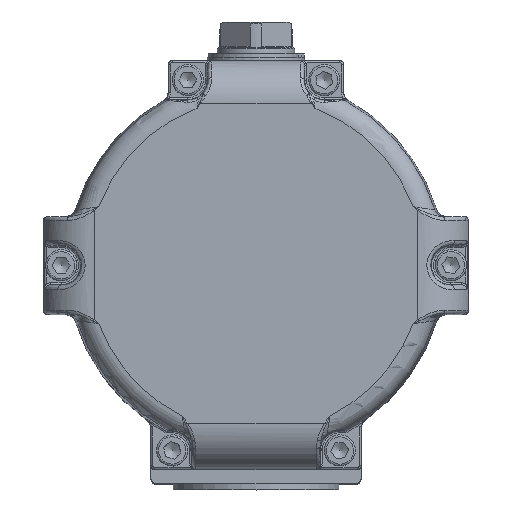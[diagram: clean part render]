
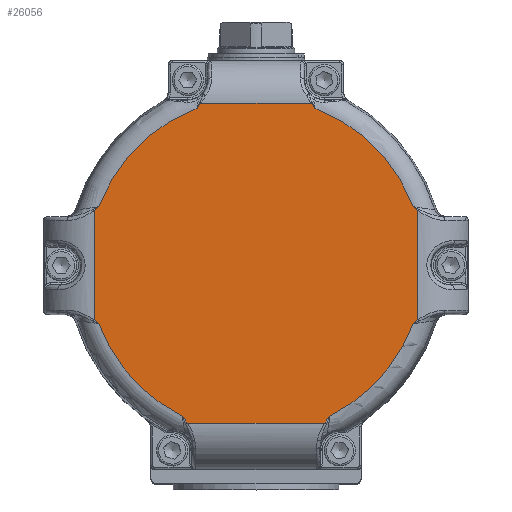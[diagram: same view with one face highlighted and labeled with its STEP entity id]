
A CAD part, top view. The second image highlights one B-rep face of the part: STEP entity #26056.
In plain terms, the highlighted planar face has unit normal (0, 0, 1).
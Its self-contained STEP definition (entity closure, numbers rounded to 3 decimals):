
#1167=PLANE('',#27844);
#1801=FACE_OUTER_BOUND('',#3384,.T.);
#3384=EDGE_LOOP('',(#17573,#17574,#17575,#17576,#17577,#17578,#17579,#17580,
#17581,#17582,#17583,#17584,#17585,#17586,#17587,#17588));
#4744=CIRCLE('',#27388,86.067);
#4759=CIRCLE('',#27408,86.067);
#4771=CIRCLE('',#27423,86.067);
#4779=CIRCLE('',#27435,86.067);
#6167=LINE('',#38567,#7098);
#6179=LINE('',#39639,#7110);
#6185=LINE('',#39931,#7116);
#6261=LINE('',#45925,#7192);
#7098=VECTOR('',#30232,10.);
#7110=VECTOR('',#30340,10.);
#7116=VECTOR('',#30376,10.);
#7192=VECTOR('',#31180,10.);
#8415=B_SPLINE_CURVE_WITH_KNOTS('',3,(#45887,#45888,#45889,#45890,#45891,
#45892),.UNSPECIFIED.,.F.,.F.,(4,2,4),(-0.002,0.,0.3),
 .UNSPECIFIED.);
#8416=B_SPLINE_CURVE_WITH_KNOTS('',3,(#45893,#45894,#45895,#45896,#45897,
#45898),.UNSPECIFIED.,.F.,.F.,(4,2,4),(0.,0.312,0.314),
 .UNSPECIFIED.);
#8417=B_SPLINE_CURVE_WITH_KNOTS('',3,(#45899,#45900,#45901,#45902,#45903,
#45904),.UNSPECIFIED.,.F.,.F.,(4,2,4),(-0.002,0.,0.312),
 .UNSPECIFIED.);
#8418=B_SPLINE_CURVE_WITH_KNOTS('',3,(#45905,#45906,#45907,#45908,#45909,
#45910),.UNSPECIFIED.,.F.,.F.,(4,2,4),(0.,0.3,
0.302),.UNSPECIFIED.);
#8419=B_SPLINE_CURVE_WITH_KNOTS('',3,(#45911,#45912,#45913,#45914,#45915,
#45916),.UNSPECIFIED.,.F.,.F.,(4,2,4),(-0.002,0.,0.3),
 .UNSPECIFIED.);
#8420=B_SPLINE_CURVE_WITH_KNOTS('',3,(#45918,#45919,#45920,#45921,#45922,
#45923),.UNSPECIFIED.,.F.,.F.,(4,2,4),(0.,0.473,0.474),
 .UNSPECIFIED.);
#8421=B_SPLINE_CURVE_WITH_KNOTS('',3,(#45926,#45927,#45928,#45929,#45930,
#45931),.UNSPECIFIED.,.F.,.F.,(4,2,4),(-0.002,0.,0.473),
 .UNSPECIFIED.);
#8422=B_SPLINE_CURVE_WITH_KNOTS('',3,(#45932,#45933,#45934,#45935,#45936,
#45937),.UNSPECIFIED.,.F.,.F.,(4,2,4),(0.,0.3,
0.302),.UNSPECIFIED.);
#9592=VERTEX_POINT('',#37887);
#9595=VERTEX_POINT('',#37911);
#9622=VERTEX_POINT('',#38304);
#9623=VERTEX_POINT('',#38312);
#9635=VERTEX_POINT('',#38561);
#9636=VERTEX_POINT('',#38566);
#9643=VERTEX_POINT('',#38631);
#9645=VERTEX_POINT('',#38645);
#9654=VERTEX_POINT('',#38879);
#9655=VERTEX_POINT('',#38884);
#9683=VERTEX_POINT('',#39637);
#9684=VERTEX_POINT('',#39638);
#9700=VERTEX_POINT('',#39929);
#9701=VERTEX_POINT('',#39930);
#10030=VERTEX_POINT('',#45917);
#10031=VERTEX_POINT('',#45924);
#12090=EDGE_CURVE('',#9595,#9592,#4744,.T.);
#12133=EDGE_CURVE('',#9622,#9623,#4759,.T.);
#12155=EDGE_CURVE('',#9635,#9636,#6167,.F.);
#12169=EDGE_CURVE('',#9645,#9643,#4771,.T.);
#12189=EDGE_CURVE('',#9654,#9655,#4779,.T.);
#12242=EDGE_CURVE('',#9683,#9684,#6179,.T.);
#12270=EDGE_CURVE('',#9700,#9701,#6185,.T.);
#12833=EDGE_CURVE('',#9655,#9701,#8415,.T.);
#12834=EDGE_CURVE('',#9636,#9654,#8416,.T.);
#12835=EDGE_CURVE('',#9643,#9635,#8417,.T.);
#12836=EDGE_CURVE('',#9684,#9645,#8418,.T.);
#12837=EDGE_CURVE('',#9623,#9683,#8419,.T.);
#12838=EDGE_CURVE('',#10030,#9622,#8420,.T.);
#12839=EDGE_CURVE('',#10030,#10031,#6261,.T.);
#12840=EDGE_CURVE('',#9592,#10031,#8421,.T.);
#12841=EDGE_CURVE('',#9700,#9595,#8422,.T.);
#17573=ORIENTED_EDGE('',*,*,#12270,.T.);
#17574=ORIENTED_EDGE('',*,*,#12833,.F.);
#17575=ORIENTED_EDGE('',*,*,#12189,.F.);
#17576=ORIENTED_EDGE('',*,*,#12834,.F.);
#17577=ORIENTED_EDGE('',*,*,#12155,.F.);
#17578=ORIENTED_EDGE('',*,*,#12835,.F.);
#17579=ORIENTED_EDGE('',*,*,#12169,.F.);
#17580=ORIENTED_EDGE('',*,*,#12836,.F.);
#17581=ORIENTED_EDGE('',*,*,#12242,.F.);
#17582=ORIENTED_EDGE('',*,*,#12837,.F.);
#17583=ORIENTED_EDGE('',*,*,#12133,.F.);
#17584=ORIENTED_EDGE('',*,*,#12838,.F.);
#17585=ORIENTED_EDGE('',*,*,#12839,.T.);
#17586=ORIENTED_EDGE('',*,*,#12840,.F.);
#17587=ORIENTED_EDGE('',*,*,#12090,.F.);
#17588=ORIENTED_EDGE('',*,*,#12841,.F.);
#26056=ADVANCED_FACE('',(#1801),#1167,.T.);
#27388=AXIS2_PLACEMENT_3D('',#37920,#30170,#30171);
#27408=AXIS2_PLACEMENT_3D('',#38313,#30212,#30213);
#27423=AXIS2_PLACEMENT_3D('',#38653,#30245,#30246);
#27435=AXIS2_PLACEMENT_3D('',#38885,#30271,#30272);
#27844=AXIS2_PLACEMENT_3D('',#45886,#31178,#31179);
#30170=DIRECTION('center_axis',(0.,0.,
-1.));
#30171=DIRECTION('ref_axis',(1.,0.,0.));
#30212=DIRECTION('center_axis',(0.,0.,
-1.));
#30213=DIRECTION('ref_axis',(1.,0.,0.));
#30232=DIRECTION('',(-1.,0.,0.));
#30245=DIRECTION('center_axis',(0.,0.,
-1.));
#30246=DIRECTION('ref_axis',(1.,0.,0.));
#30271=DIRECTION('center_axis',(0.,0.,
-1.));
#30272=DIRECTION('ref_axis',(1.,0.,0.));
#30340=DIRECTION('',(0.,1.,0.));
#30376=DIRECTION('',(0.,1.,0.));
#31178=DIRECTION('center_axis',(0.,0.,
1.));
#31179=DIRECTION('ref_axis',(0.,1.,0.));
#31180=DIRECTION('',(1.,0.,0.));
#37887=CARTESIAN_POINT('',(38.,-77.223,143.));
#37911=CARTESIAN_POINT('',(80.669,-30.,143.));
#37920=CARTESIAN_POINT('Origin',(0.,0.,
143.));
#38304=CARTESIAN_POINT('',(-38.,-77.223,143.));
#38312=CARTESIAN_POINT('',(-80.669,-30.,143.));
#38313=CARTESIAN_POINT('Origin',(0.,0.,
143.));
#38561=CARTESIAN_POINT('',(-28.255,83.,143.));
#38566=CARTESIAN_POINT('',(28.255,83.,143.));
#38567=CARTESIAN_POINT('',(0.,83.,143.));
#38631=CARTESIAN_POINT('',(-30.25,80.575,143.));
#38645=CARTESIAN_POINT('',(-80.669,30.,143.));
#38653=CARTESIAN_POINT('Origin',(0.,0.,
143.));
#38879=CARTESIAN_POINT('',(30.25,80.575,143.));
#38884=CARTESIAN_POINT('',(80.669,30.,143.));
#38885=CARTESIAN_POINT('Origin',(0.,0.,
143.));
#39637=CARTESIAN_POINT('',(-83.,-28.077,143.));
#39638=CARTESIAN_POINT('',(-83.,28.077,143.));
#39639=CARTESIAN_POINT('',(-83.,0.,143.));
#39929=CARTESIAN_POINT('',(83.,-28.077,143.));
#39930=CARTESIAN_POINT('',(83.,28.077,143.));
#39931=CARTESIAN_POINT('',(83.,0.,143.));
#45886=CARTESIAN_POINT('Origin',(43.033,0.,
143.));
#45887=CARTESIAN_POINT('Ctrl Pts',(80.669,30.,143.));
#45888=CARTESIAN_POINT('Ctrl Pts',(80.674,29.996,143.));
#45889=CARTESIAN_POINT('Ctrl Pts',(80.679,29.992,143.));
#45890=CARTESIAN_POINT('Ctrl Pts',(81.453,29.347,143.));
#45891=CARTESIAN_POINT('Ctrl Pts',(82.22,28.704,143.));
#45892=CARTESIAN_POINT('Ctrl Pts',(83.,28.077,143.));
#45893=CARTESIAN_POINT('Ctrl Pts',(28.255,83.,143.));
#45894=CARTESIAN_POINT('Ctrl Pts',(28.905,82.188,143.));
#45895=CARTESIAN_POINT('Ctrl Pts',(29.573,81.389,143.));
#45896=CARTESIAN_POINT('Ctrl Pts',(30.242,80.585,143.));
#45897=CARTESIAN_POINT('Ctrl Pts',(30.246,80.58,143.));
#45898=CARTESIAN_POINT('Ctrl Pts',(30.25,80.575,143.));
#45899=CARTESIAN_POINT('Ctrl Pts',(-30.25,80.575,143.));
#45900=CARTESIAN_POINT('Ctrl Pts',(-30.246,80.58,143.));
#45901=CARTESIAN_POINT('Ctrl Pts',(-30.242,80.585,143.));
#45902=CARTESIAN_POINT('Ctrl Pts',(-29.573,81.389,143.));
#45903=CARTESIAN_POINT('Ctrl Pts',(-28.905,82.188,143.));
#45904=CARTESIAN_POINT('Ctrl Pts',(-28.255,83.,143.));
#45905=CARTESIAN_POINT('Ctrl Pts',(-83.,28.077,143.));
#45906=CARTESIAN_POINT('Ctrl Pts',(-82.22,28.704,143.));
#45907=CARTESIAN_POINT('Ctrl Pts',(-81.453,29.347,143.));
#45908=CARTESIAN_POINT('Ctrl Pts',(-80.679,29.992,143.));
#45909=CARTESIAN_POINT('Ctrl Pts',(-80.674,29.996,143.));
#45910=CARTESIAN_POINT('Ctrl Pts',(-80.669,30.,143.));
#45911=CARTESIAN_POINT('Ctrl Pts',(-80.669,-30.,
143.));
#45912=CARTESIAN_POINT('Ctrl Pts',(-80.674,-29.996,143.));
#45913=CARTESIAN_POINT('Ctrl Pts',(-80.679,-29.992,
143.));
#45914=CARTESIAN_POINT('Ctrl Pts',(-81.452,-29.347,
143.));
#45915=CARTESIAN_POINT('Ctrl Pts',(-82.22,-28.704,
143.));
#45916=CARTESIAN_POINT('Ctrl Pts',(-83.,-28.077,
143.));
#45917=CARTESIAN_POINT('',(-35.129,-81.,143.));
#45918=CARTESIAN_POINT('Ctrl Pts',(-35.129,-81.,
143.));
#45919=CARTESIAN_POINT('Ctrl Pts',(-36.048,-79.721,
143.));
#45920=CARTESIAN_POINT('Ctrl Pts',(-37.023,-78.482,
143.));
#45921=CARTESIAN_POINT('Ctrl Pts',(-37.993,-77.233,
143.));
#45922=CARTESIAN_POINT('Ctrl Pts',(-37.996,-77.228,
143.));
#45923=CARTESIAN_POINT('Ctrl Pts',(-38.,-77.223,
143.));
#45924=CARTESIAN_POINT('',(35.129,-81.,143.));
#45925=CARTESIAN_POINT('',(0.,-81.,143.));
#45926=CARTESIAN_POINT('Ctrl Pts',(38.,-77.223,143.));
#45927=CARTESIAN_POINT('Ctrl Pts',(37.996,-77.228,143.));
#45928=CARTESIAN_POINT('Ctrl Pts',(37.993,-77.233,143.));
#45929=CARTESIAN_POINT('Ctrl Pts',(37.023,-78.482,143.));
#45930=CARTESIAN_POINT('Ctrl Pts',(36.048,-79.721,143.));
#45931=CARTESIAN_POINT('Ctrl Pts',(35.129,-81.,143.));
#45932=CARTESIAN_POINT('Ctrl Pts',(83.,-28.077,143.));
#45933=CARTESIAN_POINT('Ctrl Pts',(82.22,-28.704,143.));
#45934=CARTESIAN_POINT('Ctrl Pts',(81.453,-29.347,143.));
#45935=CARTESIAN_POINT('Ctrl Pts',(80.679,-29.992,143.));
#45936=CARTESIAN_POINT('Ctrl Pts',(80.674,-29.996,143.));
#45937=CARTESIAN_POINT('Ctrl Pts',(80.669,-30.,143.));
